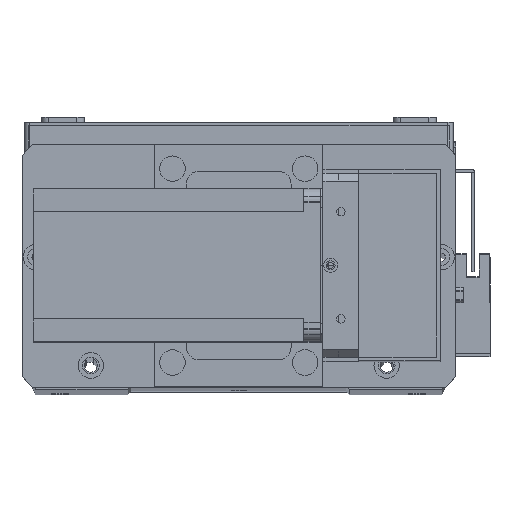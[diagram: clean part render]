
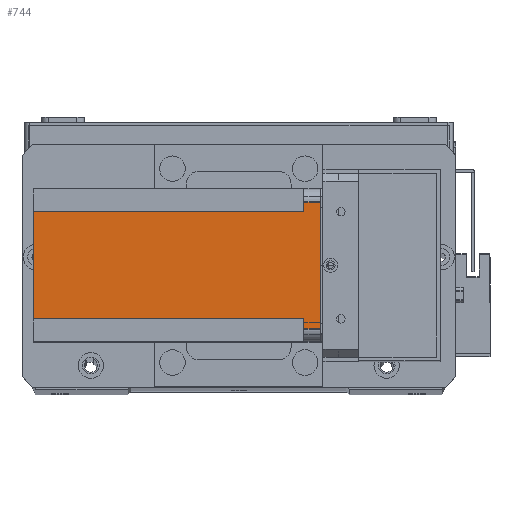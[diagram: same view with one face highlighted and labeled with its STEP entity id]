
A CAD part, top view. The second image highlights one B-rep face of the part: STEP entity #744.
In plain terms, the highlighted planar face has unit normal (0, 0, 1) as drawn and (-1, 0, 0) by its records, which use the part's own axes.
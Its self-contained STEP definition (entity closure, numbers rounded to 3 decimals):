
#744 = ADVANCED_FACE ( 'NONE', ( #15345 ), #17979, .T. ) ;
#817 = DIRECTION ( 'NONE',  ( 0., -1., 0. ) ) ;
#1066 = LINE ( 'NONE', #27239, #11655 ) ;
#1109 = VERTEX_POINT ( 'NONE', #17096 ) ;
#2373 = DIRECTION ( 'NONE',  ( 0., 0., 1. ) ) ;
#3222 = CARTESIAN_POINT ( 'NONE',  ( 0., 55., 0. ) ) ;
#5398 = VECTOR ( 'NONE', #2373, 1000. ) ;
#5493 = CARTESIAN_POINT ( 'NONE',  ( 0., 51., -112.5 ) ) ;
#5797 = EDGE_CURVE ( 'NONE', #1109, #10804, #30651, .T. ) ;
#6367 = CARTESIAN_POINT ( 'NONE',  ( 0., 60., -6.5 ) ) ;
#6911 = AXIS2_PLACEMENT_3D ( 'NONE', #28809, #27013, #20737 ) ;
#6967 = VECTOR ( 'NONE', #10688, 1000. ) ;
#7813 = DIRECTION ( 'NONE',  ( 0., 0., -1. ) ) ;
#9804 = CARTESIAN_POINT ( 'NONE',  ( 0., 5., 0. ) ) ;
#10364 = LINE ( 'NONE', #20118, #28859 ) ;
#10385 = CARTESIAN_POINT ( 'NONE',  ( 0., 9., -112.5 ) ) ;
#10501 = EDGE_CURVE ( 'NONE', #1109, #14259, #21772, .T. ) ;
#10688 = DIRECTION ( 'NONE',  ( 0., 1., 0. ) ) ;
#10804 = VERTEX_POINT ( 'NONE', #28910 ) ;
#11655 = VECTOR ( 'NONE', #7813, 1000. ) ;
#11913 = LINE ( 'NONE', #5493, #5398 ) ;
#11966 = VERTEX_POINT ( 'NONE', #3222 ) ;
#12019 = ORIENTED_EDGE ( 'NONE', *, *, #5797, .F. ) ;
#12148 = VERTEX_POINT ( 'NONE', #15920 ) ;
#12596 = LINE ( 'NONE', #29963, #30249 ) ;
#13439 = LINE ( 'NONE', #6367, #6967 ) ;
#13929 = EDGE_CURVE ( 'NONE', #12148, #15409, #13439, .T. ) ;
#13977 = EDGE_CURVE ( 'NONE', #21783, #12148, #11913, .T. ) ;
#14259 = VERTEX_POINT ( 'NONE', #9804 ) ;
#14367 = CARTESIAN_POINT ( 'NONE',  ( 0., 55., -6.5 ) ) ;
#14826 = ORIENTED_EDGE ( 'NONE', *, *, #10501, .T. ) ;
#15237 = ORIENTED_EDGE ( 'NONE', *, *, #28466, .F. ) ;
#15345 = FACE_OUTER_BOUND ( 'NONE', #24185, .T. ) ;
#15409 = VERTEX_POINT ( 'NONE', #14367 ) ;
#15717 = ORIENTED_EDGE ( 'NONE', *, *, #18238, .T. ) ;
#15920 = CARTESIAN_POINT ( 'NONE',  ( 0., 51., -6.5 ) ) ;
#16038 = LINE ( 'NONE', #29703, #25988 ) ;
#17096 = CARTESIAN_POINT ( 'NONE',  ( 0., 5., -6.5 ) ) ;
#17979 = PLANE ( 'NONE',  #6911 ) ;
#18063 = DIRECTION ( 'NONE',  ( 0., 1., 0. ) ) ;
#18238 = EDGE_CURVE ( 'NONE', #11966, #15409, #10364, .T. ) ;
#18466 = CARTESIAN_POINT ( 'NONE',  ( 0., 0., -6.5 ) ) ;
#18623 = VERTEX_POINT ( 'NONE', #10385 ) ;
#18904 = ORIENTED_EDGE ( 'NONE', *, *, #13929, .F. ) ;
#19505 = ORIENTED_EDGE ( 'NONE', *, *, #13977, .F. ) ;
#19801 = ORIENTED_EDGE ( 'NONE', *, *, #31162, .T. ) ;
#20118 = CARTESIAN_POINT ( 'NONE',  ( 0., 55., -112.5 ) ) ;
#20165 = ORIENTED_EDGE ( 'NONE', *, *, #26538, .F. ) ;
#20266 = DIRECTION ( 'NONE',  ( 0., 0., -1. ) ) ;
#20667 = DIRECTION ( 'NONE',  ( 0., 0., 1. ) ) ;
#20737 = DIRECTION ( 'NONE',  ( 0., -1., 0. ) ) ;
#21685 = CARTESIAN_POINT ( 'NONE',  ( 0., 5., -112.5 ) ) ;
#21772 = LINE ( 'NONE', #21685, #22010 ) ;
#21783 = VERTEX_POINT ( 'NONE', #26243 ) ;
#22010 = VECTOR ( 'NONE', #20667, 1000. ) ;
#22939 = DIRECTION ( 'NONE',  ( 0., -1., 0. ) ) ;
#24185 = EDGE_LOOP ( 'NONE', ( #12019, #14826, #15237, #15717, #18904, #19505, #19801, #20165 ) ) ;
#25988 = VECTOR ( 'NONE', #817, 1000. ) ;
#26243 = CARTESIAN_POINT ( 'NONE',  ( 0., 51., -112.5 ) ) ;
#26538 = EDGE_CURVE ( 'NONE', #10804, #18623, #1066, .T. ) ;
#27013 = DIRECTION ( 'NONE',  ( -1., 0., 0. ) ) ;
#27239 = CARTESIAN_POINT ( 'NONE',  ( 0., 9., -112.5 ) ) ;
#28466 = EDGE_CURVE ( 'NONE', #11966, #14259, #16038, .T. ) ;
#28809 = CARTESIAN_POINT ( 'NONE',  ( 0., 0., -112.5 ) ) ;
#28859 = VECTOR ( 'NONE', #20266, 1000. ) ;
#28910 = CARTESIAN_POINT ( 'NONE',  ( 0., 9., -6.5 ) ) ;
#29703 = CARTESIAN_POINT ( 'NONE',  ( 0., 0., 0. ) ) ;
#29963 = CARTESIAN_POINT ( 'NONE',  ( 0., 0., -112.5 ) ) ;
#30249 = VECTOR ( 'NONE', #22939, 1000. ) ;
#30621 = VECTOR ( 'NONE', #18063, 1000. ) ;
#30651 = LINE ( 'NONE', #18466, #30621 ) ;
#31162 = EDGE_CURVE ( 'NONE', #21783, #18623, #12596, .T. ) ;
